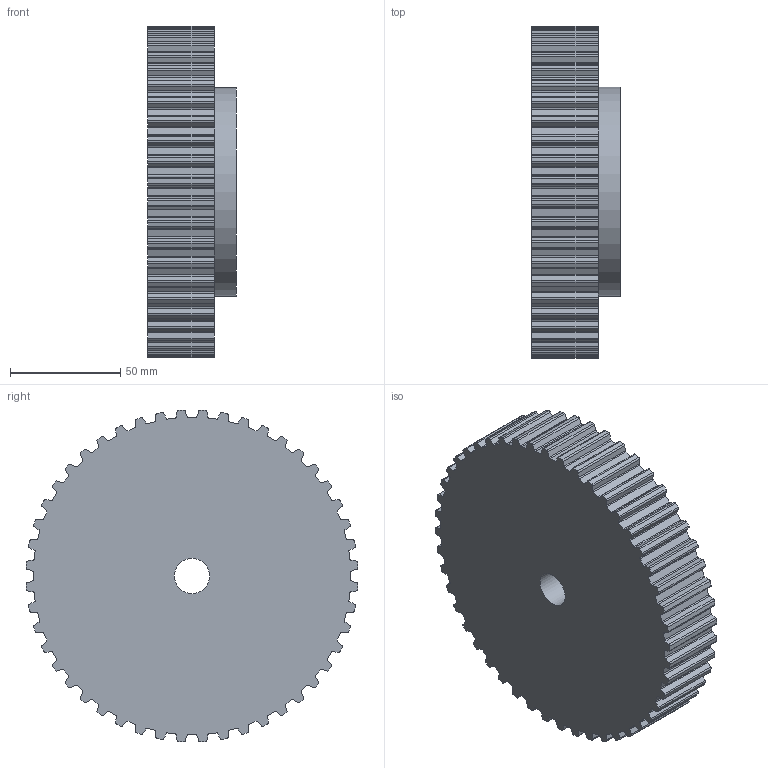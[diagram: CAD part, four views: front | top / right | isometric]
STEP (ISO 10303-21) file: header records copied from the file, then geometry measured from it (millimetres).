
FILE_DESCRIPTION( ( 'STEP AP203' ), '1' );
FILE_NAME( 'C:/Users/Stangenbergd/Documents/CAD_Step/1/16434800.stp', '2020-09-13T08:39:19', ( 'License CC BY-ND 4.0' ), ( 'CADENAS' ), ' ', 'PARTsolutions', ' ' );
FILE_SCHEMA( ( 'CONFIG_CONTROL_DESIGN' ) );
Length unit declared in the file: millimetre
Products named in the file (1): _16434800
Bounding box: 40 x 150.73 x 150.73 mm (x, y, z)
Volume: 573347.7 mm3; surface area: 58784 mm2
Topology: 1 solids, 1 shells, 389 faces, 1158 edges, 772 vertices
Faces by surface type: cylinder 242, plane 147
Full cylindrical faces by diameter (mm): 16 x1, 95 x1
Entity records: 13294 total; most frequent: DIRECTION 2420, CARTESIAN_POINT 2318, ORIENTED_EDGE 2312, EDGE_CURVE 1156, AXIS2_PLACEMENT_3D 874, VERTEX_POINT 772, LINE 672, VECTOR 672
